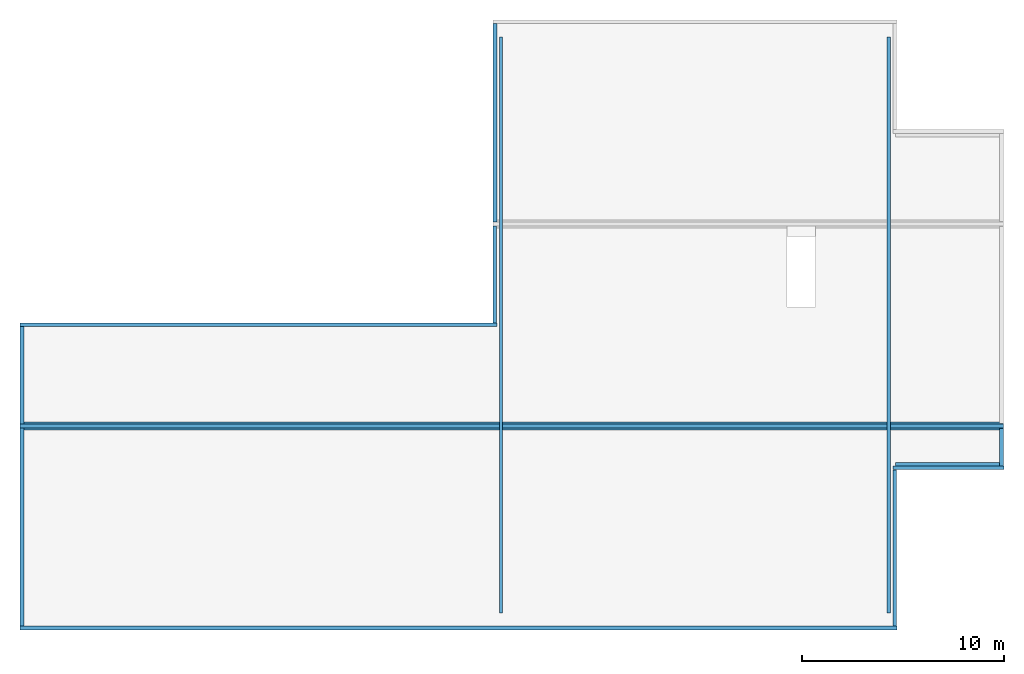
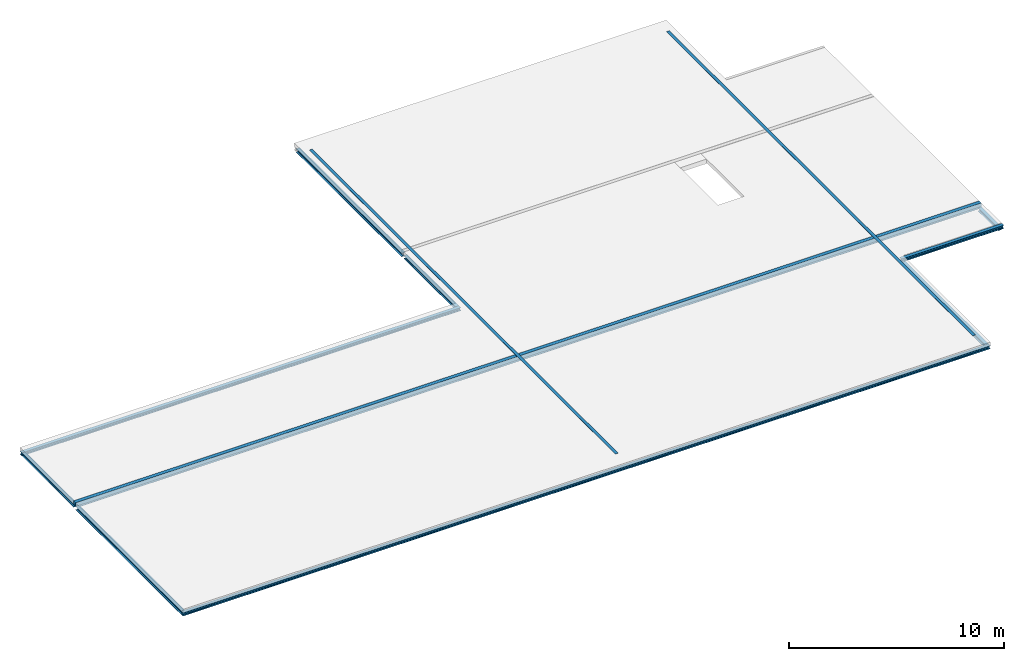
# One storey, part 1 of 2: 12 beams.
"""IFC2X3 building model written with IfcOpenShell, lengths in millimetres."""

from ifc_helpers import new_model, entity, si_unit, converted_unit, derived_unit, direction, frame, frame_2d, origin, origin_2d_with_axis, place, context, subcontext, project, spatial, polyline, circle_curve, parameter, trimmed, segment, composite_curve, rectangle, i_section, outline, extrude, boolean, source, transform, mapped, material, type_object, type_shapes, element, save


model = new_model("IFC2X3")

# Units and contexts
model_context = context("Model", 3, precision=0.01, world=origin(), true_north=direction((6.123031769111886e-17, 1.0)))
body_context = subcontext(model_context, "Body", "Model", "MODEL_VIEW")
ifc_project = project(units=[si_unit("LENGTHUNIT", "METRE", prefix="MILLI"), si_unit("AREAUNIT", "SQUARE_METRE"), si_unit("VOLUMEUNIT", "CUBIC_METRE"), converted_unit("PLANEANGLEUNIT", "DEGREE", entity("IfcPlaneAngleMeasure", 0.017453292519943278), si_unit("PLANEANGLEUNIT", "RADIAN"), dimensions=[0, 0, 0, 0, 0, 0, 0]), si_unit("MASSUNIT", "GRAM", prefix="KILO"), derived_unit("MASSDENSITYUNIT", [(si_unit("MASSUNIT", "GRAM", prefix="KILO"), 1), (si_unit("LENGTHUNIT", "METRE"), -3)]), derived_unit("IONCONCENTRATIONUNIT", [(si_unit("MASSUNIT", "GRAM", prefix="KILO"), 1), (si_unit("LENGTHUNIT", "METRE"), -3)]), derived_unit("MOMENTOFINERTIAUNIT", [(si_unit("LENGTHUNIT", "METRE"), 4)]), si_unit("TIMEUNIT", "SECOND"), si_unit("FREQUENCYUNIT", "HERTZ"), si_unit("THERMODYNAMICTEMPERATUREUNIT", "DEGREE_CELSIUS"), derived_unit("THERMALTRANSMITTANCEUNIT", [(si_unit("MASSUNIT", "GRAM", prefix="KILO"), 1), (si_unit("THERMODYNAMICTEMPERATUREUNIT", "KELVIN"), -1), (si_unit("TIMEUNIT", "SECOND"), -3)]), derived_unit("THERMALCONDUCTANCEUNIT", [(si_unit("MASSUNIT", "GRAM", prefix="KILO"), 1), (si_unit("THERMODYNAMICTEMPERATUREUNIT", "KELVIN"), -1), (si_unit("TIMEUNIT", "SECOND"), -3), (si_unit("LENGTHUNIT", "METRE"), 1)]), derived_unit("VOLUMETRICFLOWRATEUNIT", [(si_unit("LENGTHUNIT", "METRE", prefix="DECI"), 3), (si_unit("TIMEUNIT", "SECOND"), -1)]), derived_unit("MASSFLOWRATEUNIT", [(si_unit("MASSUNIT", "GRAM", prefix="KILO"), 1), (si_unit("TIMEUNIT", "SECOND"), -1)]), derived_unit("ROTATIONALFREQUENCYUNIT", [(si_unit("TIMEUNIT", "SECOND"), -1)]), si_unit("ELECTRICCURRENTUNIT", "AMPERE"), si_unit("ELECTRICVOLTAGEUNIT", "VOLT"), si_unit("POWERUNIT", "WATT"), si_unit("FORCEUNIT", "NEWTON", prefix="KILO"), si_unit("ILLUMINANCEUNIT", "LUX"), si_unit("LUMINOUSFLUXUNIT", "LUMEN"), si_unit("LUMINOUSINTENSITYUNIT", "CANDELA"), si_unit("ENERGYUNIT", "JOULE"), derived_unit("USERDEFINED", [(si_unit("MASSUNIT", "GRAM", prefix="KILO"), -1), (si_unit("LENGTHUNIT", "METRE"), -2), (si_unit("TIMEUNIT", "SECOND"), 3), (si_unit("LUMINOUSFLUXUNIT", "LUMEN"), 1)]), derived_unit("USERDEFINED", [(si_unit("MASSUNIT", "GRAM", prefix="KILO"), 1), (si_unit("TIMEUNIT", "SECOND"), -3), (si_unit("LENGTHUNIT", "METRE"), 3), (si_unit("ELECTRICCURRENTUNIT", "AMPERE"), -2)]), derived_unit("SOUNDPOWERUNIT", [(si_unit("MASSUNIT", "GRAM", prefix="KILO"), 1), (si_unit("TIMEUNIT", "SECOND"), -3), (si_unit("LENGTHUNIT", "METRE"), 2)]), derived_unit("SOUNDPRESSUREUNIT", [(si_unit("MASSUNIT", "GRAM", prefix="KILO"), 1), (si_unit("LENGTHUNIT", "METRE"), -1), (si_unit("TIMEUNIT", "SECOND"), -2)]), derived_unit("LINEARVELOCITYUNIT", [(si_unit("LENGTHUNIT", "METRE"), 1), (si_unit("TIMEUNIT", "SECOND"), -1)]), si_unit("PRESSUREUNIT", "PASCAL"), derived_unit("USERDEFINED", [(si_unit("MASSUNIT", "GRAM", prefix="KILO"), 1), (si_unit("LENGTHUNIT", "METRE"), -2), (si_unit("TIMEUNIT", "SECOND"), -2)]), derived_unit("LINEARFORCEUNIT", [(si_unit("MASSUNIT", "GRAM", prefix="KILO"), 1), (si_unit("TIMEUNIT", "SECOND"), -2)]), derived_unit("PLANARFORCEUNIT", [(si_unit("MASSUNIT", "GRAM", prefix="KILO"), 1), (si_unit("LENGTHUNIT", "METRE"), -1), (si_unit("TIMEUNIT", "SECOND"), -2)]), derived_unit("SPECIFICHEATCAPACITYUNIT", [(si_unit("THERMODYNAMICTEMPERATUREUNIT", "KELVIN"), -1), (si_unit("LENGTHUNIT", "METRE"), 2), (si_unit("TIMEUNIT", "SECOND"), -2)]), derived_unit("HEATFLUXDENSITYUNIT", [(si_unit("MASSUNIT", "GRAM", prefix="KILO"), 1), (si_unit("TIMEUNIT", "SECOND"), -3)]), derived_unit("HEATINGVALUEUNIT", [(si_unit("LENGTHUNIT", "METRE"), 2), (si_unit("TIMEUNIT", "SECOND"), -2)]), derived_unit("VAPORPERMEABILITYUNIT", [(si_unit("LENGTHUNIT", "METRE"), -1), (si_unit("TIMEUNIT", "SECOND"), 1)]), derived_unit("DYNAMICVISCOSITYUNIT", [(si_unit("MASSUNIT", "GRAM", prefix="KILO"), 1), (si_unit("TIMEUNIT", "SECOND"), -1), (si_unit("LENGTHUNIT", "METRE"), -1)]), derived_unit("THERMALEXPANSIONCOEFFICIENTUNIT", [(si_unit("THERMODYNAMICTEMPERATUREUNIT", "KELVIN"), -1)]), derived_unit("MODULUSOFELASTICITYUNIT", [(si_unit("MASSUNIT", "GRAM", prefix="KILO"), 1), (si_unit("LENGTHUNIT", "METRE"), -1), (si_unit("TIMEUNIT", "SECOND"), -2)]), derived_unit("ISOTHERMALMOISTURECAPACITYUNIT", [(si_unit("MASSUNIT", "GRAM", prefix="KILO"), -1), (si_unit("LENGTHUNIT", "METRE"), 3)]), derived_unit("MOISTUREDIFFUSIVITYUNIT", [(si_unit("TIMEUNIT", "SECOND"), -1), (si_unit("LENGTHUNIT", "METRE"), 2)]), derived_unit("MASSPERLENGTHUNIT", [(si_unit("MASSUNIT", "GRAM", prefix="KILO"), 1), (si_unit("LENGTHUNIT", "METRE"), -1)]), derived_unit("THERMALRESISTANCEUNIT", [(si_unit("MASSUNIT", "GRAM", prefix="KILO"), -1), (si_unit("TIMEUNIT", "SECOND"), 3), (si_unit("THERMODYNAMICTEMPERATUREUNIT", "KELVIN"), 1)]), derived_unit("ACCELERATIONUNIT", [(si_unit("LENGTHUNIT", "METRE"), 1), (si_unit("TIMEUNIT", "SECOND"), -2)]), derived_unit("ANGULARVELOCITYUNIT", [(si_unit("TIMEUNIT", "SECOND"), -1), (si_unit("PLANEANGLEUNIT", "RADIAN"), 1)]), derived_unit("LINEARSTIFFNESSUNIT", [(si_unit("MASSUNIT", "GRAM", prefix="KILO"), 1), (si_unit("TIMEUNIT", "SECOND"), -2)]), derived_unit("WARPINGCONSTANTUNIT", [(si_unit("LENGTHUNIT", "METRE"), 6)]), derived_unit("LINEARMOMENTUNIT", [(si_unit("MASSUNIT", "GRAM", prefix="KILO"), 1), (si_unit("LENGTHUNIT", "METRE"), 1), (si_unit("TIMEUNIT", "SECOND"), -2)]), derived_unit("TORQUEUNIT", [(si_unit("MASSUNIT", "GRAM", prefix="KILO"), 1), (si_unit("LENGTHUNIT", "METRE"), 2), (si_unit("TIMEUNIT", "SECOND"), -2)])], contexts=[model_context])

# Site, building, storey
site_placement = place(None, origin())
site = spatial("IfcSite", under=ifc_project, at=site_placement, Name="Default", CompositionType="ELEMENT")
building_placement = place(site_placement, origin())
building = spatial("IfcBuilding", under=site, at=building_placement, CompositionType="ELEMENT")
storey_placement = place(building_placement, frame((0.0, 0.0, 7750.0)))
storey = spatial("IfcBuildingStorey", under=building, at=storey_placement, Name="02 tweede verdieping", CompositionType="ELEMENT", Elevation=7750.0)

# Beams
ifc_material = material(Name="VRI_staal")
beam_type_1 = type_object("IfcBeamType", Name="28_SFR_VRI_balk_staal_H:HEB180", PredefinedType="NOTDEFINED")
beam_1_placement = place(storey_placement, frame((10000.0, 25000.0, -205.0)))
element("IfcBeam", 1, at=beam_1_placement, inside=storey, type_object=beam_type_1, material=ifc_material, Name="28_SFR_VRI_balk_staal_H:HEB180", ObjectType="28_SFR_VRI_balk_staal_H:HEB180", context=body_context, shape_type="SweptSolid", body=[
    extrude(outline(composite_curve([segment(polyline([(76.0, -90.0), (90.0, -90.0)]), True, "CONTINUOUS"), segment(polyline([(90.0, -90.0), (90.0, 90.0)]), True, "CONTINUOUS"), segment(polyline([(90.0, 90.0), (76.0, 90.0)]), True, "CONTINUOUS"), segment(polyline([(76.0, 90.0), (76.0, 19.249999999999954)]), True, "CONTINUOUS"), segment(trimmed(circle_curve(frame_2d((61.0, 19.250000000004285), x_axis=(1.0, 0.0)), 15.000000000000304), [parameter(270.00000000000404)], [parameter(0.0)], True, "PARAMETER"), False, "CONTINUOUS"), segment(polyline([(61.0, 4.250000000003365), (-61.0, 4.250000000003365)]), True, "CONTINUOUS"), segment(trimmed(circle_curve(frame_2d((-61.0, 19.250000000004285), x_axis=(0.0, -1.0)), 15.000000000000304), [parameter(270.00000000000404)], [parameter(0.0)], True, "PARAMETER"), False, "CONTINUOUS"), segment(polyline([(-76.0, 19.250000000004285), (-76.0, 90.0)]), True, "CONTINUOUS"), segment(polyline([(-76.0, 90.0), (-90.0, 90.0)]), True, "CONTINUOUS"), segment(polyline([(-90.0, 90.0), (-90.0, -90.0)]), True, "CONTINUOUS"), segment(polyline([(-90.0, -90.0), (-76.0, -90.0)]), True, "CONTINUOUS"), segment(polyline([(-76.0, -90.0), (-76.0, -19.249999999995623)]), True, "CONTINUOUS"), segment(trimmed(circle_curve(frame_2d((-61.0, -19.249999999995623), x_axis=(-1.0, 0.0)), 15.000000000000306), [parameter(270.00000000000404)], [parameter(0.0)], True, "PARAMETER"), False, "CONTINUOUS"), segment(polyline([(-61.0, -4.249999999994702), (61.0, -4.249999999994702)]), True, "CONTINUOUS"), segment(trimmed(circle_curve(frame_2d((61.0, -19.249999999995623), x_axis=(0.0, 1.0)), 15.000000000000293), [parameter(270.00000000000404)], [parameter(0.0)], True, "PARAMETER"), False, "CONTINUOUS"), segment(polyline([(76.0, -19.249999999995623), (76.0, -90.0)]), True, "CONTINUOUS")], self_intersect=False)), frame((-100.0, 0.0, -90.0), z_axis=(1.0, 0.0, 0.0), x_axis=(0.0, 0.0, -1.0)), (0.0, 0.0, 1.0), 23600.00000000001),
])
beam_2_placement = place(storey_placement, frame((10000.0, 10000.0, -205.0)))
element("IfcBeam", 2, at=beam_2_placement, inside=storey, type_object=beam_type_1, material=ifc_material, Name="28_SFR_VRI_balk_staal_H:HEB180", ObjectType="28_SFR_VRI_balk_staal_H:HEB180", context=body_context, shape_type="SweptSolid", body=[
    extrude(outline(composite_curve([segment(polyline([(76.0, -90.0), (90.0, -90.0)]), True, "CONTINUOUS"), segment(polyline([(90.0, -90.0), (90.0, 90.0)]), True, "CONTINUOUS"), segment(polyline([(90.0, 90.0), (76.0, 90.0)]), True, "CONTINUOUS"), segment(polyline([(76.0, 90.0), (76.0, 19.25000000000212)]), True, "CONTINUOUS"), segment(trimmed(circle_curve(frame_2d((61.0, 19.25000000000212), x_axis=(1.0, 0.0)), 15.000000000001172), [parameter(270.00000000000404)], [parameter(0.0)], True, "PARAMETER"), False, "CONTINUOUS"), segment(polyline([(61.0, 4.250000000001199), (-61.0, 4.250000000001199)]), True, "CONTINUOUS"), segment(trimmed(circle_curve(frame_2d((-61.0, 19.25000000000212), x_axis=(0.0, -1.0)), 15.000000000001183), [parameter(270.00000000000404)], [parameter(0.0)], True, "PARAMETER"), False, "CONTINUOUS"), segment(polyline([(-76.0, 19.25000000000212), (-76.0, 90.0)]), True, "CONTINUOUS"), segment(polyline([(-76.0, 90.0), (-90.0, 90.0)]), True, "CONTINUOUS"), segment(polyline([(-90.0, 90.0), (-90.0, -90.0)]), True, "CONTINUOUS"), segment(polyline([(-90.0, -90.0), (-76.0, -90.0)]), True, "CONTINUOUS"), segment(polyline([(-76.0, -90.0), (-76.0, -19.249999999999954)]), True, "CONTINUOUS"), segment(trimmed(circle_curve(frame_2d((-61.0, -19.249999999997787), x_axis=(-1.0, 0.0)), 15.000000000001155), [parameter(270.00000000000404)], [parameter(0.0)], True, "PARAMETER"), False, "CONTINUOUS"), segment(polyline([(-61.0, -4.2499999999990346), (61.0, -4.2499999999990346)]), True, "CONTINUOUS"), segment(trimmed(circle_curve(frame_2d((61.0, -19.249999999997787), x_axis=(0.0, 1.0)), 15.000000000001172), [parameter(270.00000000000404)], [parameter(0.0)], True, "PARAMETER"), False, "CONTINUOUS"), segment(polyline([(76.0, -19.249999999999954), (76.0, -90.0)]), True, "CONTINUOUS")], self_intersect=False)), frame((-100.0, 0.0, -90.0), z_axis=(1.0, 0.0, 0.0), x_axis=(0.0, 0.0, -1.0)), (0.0, 0.0, 1.0), 43400.00000000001),
])
beam_3_placement = place(storey_placement, frame((58475.0, 20000.0, -205.0), z_axis=(0.0, 0.0, 1.0), x_axis=(0.0, -1.0, 0.0)))
element("IfcBeam", 3, at=beam_3_placement, inside=storey, type_object=beam_type_1, material=ifc_material, Name="28_SFR_VRI_balk_staal_H:HEB180", ObjectType="28_SFR_VRI_balk_staal_H:HEB180", context=body_context, shape_type="SweptSolid", body=[
    extrude(outline(composite_curve([segment(polyline([(76.0, -90.0), (90.0, -90.0)]), True, "CONTINUOUS"), segment(polyline([(90.0, -90.0), (90.0, 90.0)]), True, "CONTINUOUS"), segment(polyline([(90.0, 90.0), (76.0, 90.0)]), True, "CONTINUOUS"), segment(polyline([(76.0, 90.0), (76.0, 19.249999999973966)]), True, "CONTINUOUS"), segment(trimmed(circle_curve(frame_2d((61.0, 19.24999999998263), x_axis=(1.0, 0.0)), 14.999999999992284), [parameter(269.99999999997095)], [parameter(0.0)], True, "PARAMETER"), False, "CONTINUOUS"), segment(polyline([(61.0, 4.249999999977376), (-61.0, 4.249999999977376)]), True, "CONTINUOUS"), segment(trimmed(circle_curve(frame_2d((-61.0, 19.24999999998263), x_axis=(0.0, -1.0)), 14.999999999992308), [parameter(269.99999999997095)], [parameter(0.0)], True, "PARAMETER"), False, "CONTINUOUS"), segment(polyline([(-76.0, 19.24999999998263), (-76.0, 90.0)]), True, "CONTINUOUS"), segment(polyline([(-76.0, 90.0), (-90.0, 90.0)]), True, "CONTINUOUS"), segment(polyline([(-90.0, 90.0), (-90.0, -90.0)]), True, "CONTINUOUS"), segment(polyline([(-90.0, -90.0), (-76.0, -90.0)]), True, "CONTINUOUS"), segment(polyline([(-76.0, -90.0), (-76.0, -19.25000000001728)]), True, "CONTINUOUS"), segment(trimmed(circle_curve(frame_2d((-61.0, -19.25000000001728), x_axis=(-1.0, 0.0)), 14.9999999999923), [parameter(269.99999999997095)], [parameter(0.0)], True, "PARAMETER"), False, "CONTINUOUS"), segment(polyline([(-61.0, -4.250000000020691), (61.0, -4.250000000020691)]), True, "CONTINUOUS"), segment(trimmed(circle_curve(frame_2d((61.0, -19.25000000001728), x_axis=(0.0, 1.0)), 14.999999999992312), [parameter(269.99999999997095)], [parameter(0.0)], True, "PARAMETER"), False, "CONTINUOUS"), segment(polyline([(76.0, -19.25000000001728), (76.0, -90.0)]), True, "CONTINUOUS")], self_intersect=False)), frame((125.0, 0.0, -90.0), z_axis=(1.0, 0.0, 0.0), x_axis=(0.0, 0.0, -1.0)), (0.0, 0.0, 1.0), 1860.0000000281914),
])
beam_4_placement = place(storey_placement, frame((33400.0, 30000.0, -205.0), z_axis=(0.0, 0.0, 1.0), x_axis=(0.0, -1.0, 0.0)))
element("IfcBeam", 4, at=beam_4_placement, inside=storey, type_object=beam_type_1, material=ifc_material, Name="28_SFR_VRI_balk_staal_H:HEB180", ObjectType="28_SFR_VRI_balk_staal_H:HEB180", context=body_context, shape_type="SweptSolid", body=[
    extrude(outline(composite_curve([segment(polyline([(76.0, -90.0), (90.0, -90.0)]), True, "CONTINUOUS"), segment(polyline([(90.0, -90.0), (90.0, 90.0)]), True, "CONTINUOUS"), segment(polyline([(90.0, 90.0), (76.0, 90.0)]), True, "CONTINUOUS"), segment(polyline([(76.0, 90.0), (76.0, 19.249999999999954)]), True, "CONTINUOUS"), segment(trimmed(circle_curve(frame_2d((61.0, 19.250000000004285), x_axis=(1.0, 0.0)), 15.000000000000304), [parameter(270.00000000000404)], [parameter(0.0)], True, "PARAMETER"), False, "CONTINUOUS"), segment(polyline([(61.0, 4.250000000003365), (-61.0, 4.250000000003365)]), True, "CONTINUOUS"), segment(trimmed(circle_curve(frame_2d((-61.0, 19.250000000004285), x_axis=(0.0, -1.0)), 15.000000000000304), [parameter(270.00000000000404)], [parameter(0.0)], True, "PARAMETER"), False, "CONTINUOUS"), segment(polyline([(-76.0, 19.250000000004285), (-76.0, 90.0)]), True, "CONTINUOUS"), segment(polyline([(-76.0, 90.0), (-90.0, 90.0)]), True, "CONTINUOUS"), segment(polyline([(-90.0, 90.0), (-90.0, -90.0)]), True, "CONTINUOUS"), segment(polyline([(-90.0, -90.0), (-76.0, -90.0)]), True, "CONTINUOUS"), segment(polyline([(-76.0, -90.0), (-76.0, -19.249999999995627)]), True, "CONTINUOUS"), segment(trimmed(circle_curve(frame_2d((-61.0, -19.249999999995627), x_axis=(-1.0, 0.0)), 15.000000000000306), [parameter(270.00000000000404)], [parameter(0.0)], True, "PARAMETER"), False, "CONTINUOUS"), segment(polyline([(-61.0, -4.249999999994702), (61.0, -4.249999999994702)]), True, "CONTINUOUS"), segment(trimmed(circle_curve(frame_2d((61.0, -19.249999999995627), x_axis=(0.0, 1.0)), 15.000000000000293), [parameter(270.00000000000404)], [parameter(0.0)], True, "PARAMETER"), False, "CONTINUOUS"), segment(polyline([(76.0, -19.249999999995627), (76.0, -90.0)]), True, "CONTINUOUS")], self_intersect=False)), frame((100.0, 0.0, -90.0), z_axis=(1.0, 0.0, 0.0), x_axis=(0.0, 0.0, -1.0)), (0.0, 0.0, 1.0), 4810.000000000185),
])
beam_5_placement = place(storey_placement, frame((10000.0, 25000.0, -205.0), z_axis=(0.0, 0.0, 1.0), x_axis=(0.0, -1.0, 0.0)))
element("IfcBeam", 5, at=beam_5_placement, inside=storey, type_object=beam_type_1, material=ifc_material, Name="28_SFR_VRI_balk_staal_H:HEB180", ObjectType="28_SFR_VRI_balk_staal_H:HEB180", context=body_context, shape_type="SweptSolid", body=[
    extrude(outline(composite_curve([segment(polyline([(76.0, -90.0), (90.0, -90.0)]), True, "CONTINUOUS"), segment(polyline([(90.0, -90.0), (90.0, 90.0)]), True, "CONTINUOUS"), segment(polyline([(90.0, 90.0), (76.0, 90.0)]), True, "CONTINUOUS"), segment(polyline([(76.0, 90.0), (76.0, 19.249999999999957)]), True, "CONTINUOUS"), segment(trimmed(circle_curve(frame_2d((61.0, 19.249999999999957), x_axis=(1.0, 0.0)), 15.000000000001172), [parameter(270.00000000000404)], [parameter(0.0)], True, "PARAMETER"), False, "CONTINUOUS"), segment(polyline([(61.0, 4.249999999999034), (-61.0, 4.249999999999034)]), True, "CONTINUOUS"), segment(trimmed(circle_curve(frame_2d((-61.0, 19.249999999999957), x_axis=(0.0, -1.0)), 15.000000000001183), [parameter(270.00000000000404)], [parameter(0.0)], True, "PARAMETER"), False, "CONTINUOUS"), segment(polyline([(-76.0, 19.249999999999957), (-76.0, 90.0)]), True, "CONTINUOUS"), segment(polyline([(-76.0, 90.0), (-90.0, 90.0)]), True, "CONTINUOUS"), segment(polyline([(-90.0, 90.0), (-90.0, -90.0)]), True, "CONTINUOUS"), segment(polyline([(-90.0, -90.0), (-76.0, -90.0)]), True, "CONTINUOUS"), segment(polyline([(-76.0, -90.0), (-76.0, -19.24999999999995)]), True, "CONTINUOUS"), segment(trimmed(circle_curve(frame_2d((-61.0, -19.24999999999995), x_axis=(-1.0, 0.0)), 15.000000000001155), [parameter(270.00000000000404)], [parameter(0.0)], True, "PARAMETER"), False, "CONTINUOUS"), segment(polyline([(-61.0, -4.250000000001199), (61.0, -4.250000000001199)]), True, "CONTINUOUS"), segment(trimmed(circle_curve(frame_2d((61.0, -19.24999999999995), x_axis=(0.0, 1.0)), 15.000000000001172), [parameter(270.00000000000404)], [parameter(0.0)], True, "PARAMETER"), False, "CONTINUOUS"), segment(polyline([(76.0, -19.250000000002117), (76.0, -90.0)]), True, "CONTINUOUS")], self_intersect=False)), frame((90.0, 0.0, -90.0), z_axis=(1.0, 0.0, 0.0), x_axis=(0.0, 0.0, -1.0)), (0.0, 0.0, 1.0), 4809.9999999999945),
])
beam_6_placement = place(storey_placement, frame((53200.0, 17925.0, -205.0), z_axis=(0.0, 0.0, 1.0), x_axis=(0.0, -1.0, 0.0)))
element("IfcBeam", 6, at=beam_6_placement, inside=storey, type_object=beam_type_1, material=ifc_material, Name="28_SFR_VRI_balk_staal_H:HEB180", ObjectType="28_SFR_VRI_balk_staal_H:HEB180", context=body_context, shape_type="SweptSolid", body=[
    extrude(outline(composite_curve([segment(polyline([(76.0, -90.0), (90.0, -90.0)]), True, "CONTINUOUS"), segment(polyline([(90.0, -90.0), (90.0, 90.0)]), True, "CONTINUOUS"), segment(polyline([(90.0, 90.0), (76.0, 90.0)]), True, "CONTINUOUS"), segment(polyline([(76.0, 90.0), (76.0, 19.25000000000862)]), True, "CONTINUOUS"), segment(trimmed(circle_curve(frame_2d((61.0, 19.25000000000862), x_axis=(1.0, 0.0)), 14.999999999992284), [parameter(269.99999999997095)], [parameter(0.0)], True, "PARAMETER"), False, "CONTINUOUS"), segment(polyline([(61.0, 4.250000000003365), (-61.0, 4.250000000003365)]), True, "CONTINUOUS"), segment(trimmed(circle_curve(frame_2d((-61.0, 19.25000000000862), x_axis=(0.0, -1.0)), 14.999999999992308), [parameter(269.99999999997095)], [parameter(0.0)], True, "PARAMETER"), False, "CONTINUOUS"), segment(polyline([(-76.0, 19.25000000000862), (-76.0, 90.0)]), True, "CONTINUOUS"), segment(polyline([(-76.0, 90.0), (-90.0, 90.0)]), True, "CONTINUOUS"), segment(polyline([(-90.0, 90.0), (-90.0, -90.0)]), True, "CONTINUOUS"), segment(polyline([(-90.0, -90.0), (-76.0, -90.0)]), True, "CONTINUOUS"), segment(polyline([(-76.0, -90.0), (-76.0, -19.249999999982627)]), True, "CONTINUOUS"), segment(trimmed(circle_curve(frame_2d((-61.0, -19.249999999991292), x_axis=(-1.0, 0.0)), 14.9999999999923), [parameter(269.99999999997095)], [parameter(0.0)], True, "PARAMETER"), False, "CONTINUOUS"), segment(polyline([(-61.0, -4.249999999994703), (61.0, -4.249999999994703)]), True, "CONTINUOUS"), segment(trimmed(circle_curve(frame_2d((61.0, -19.249999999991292), x_axis=(0.0, 1.0)), 14.999999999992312), [parameter(269.99999999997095)], [parameter(0.0)], True, "PARAMETER"), False, "CONTINUOUS"), segment(polyline([(76.0, -19.249999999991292), (76.0, -90.0)]), True, "CONTINUOUS")], self_intersect=False)), frame((100.0, 0.0, -90.0), z_axis=(1.0, 0.0, 0.0), x_axis=(0.0, 0.0, -1.0)), (0.0, 0.0, 1.0), 7734.999999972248),
])
beam_type_2 = type_object("IfcBeamType", Name="28_SFR_VRI_balk_staal_THQ:THQ200x5-190x15-400x15", PredefinedType="NOTDEFINED")
beam_7_placement = place(storey_placement, frame((10000.0, 20000.0, -5.0)))
element("IfcBeam", 7, at=beam_7_placement, inside=storey, type_object=beam_type_2, material=ifc_material, Name="28_SFR_VRI_balk_staal_THQ:THQ200x5-190x15-400x15", ObjectType="28_SFR_VRI_balk_staal_THQ:THQ200x5-190x15-400x15", context=body_context, shape_type="SweptSolid", body=[
    boolean("DIFFERENCE", extrude(outline(polyline([(46.25000000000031, -200.0), (61.24999999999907, -200.0), (61.24999999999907, 200.0), (46.24999999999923, 200.0), (46.24999999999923, 100.0), (-153.7499999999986, 100.0), (-153.7499999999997, -100.0), (46.25000000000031, -100.0), (46.25000000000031, -200.0)])), frame((-100.0, 0.0, -153.7500000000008), z_axis=(1.0, 0.0, 0.0), x_axis=(0.0, 0.0, -1.0)), (0.0, 0.0, 1.0), 48675.00000000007), extrude(rectangle(XDim=185.00000000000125, YDim=190.0000000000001, at=frame_2d((0.0, 0.0), x_axis=(0.0, 1.0))), frame((48575.0, 0.0, -107.50000000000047), z_axis=(-1.0, 0.0, 0.0), x_axis=(0.0, 1.0, 0.0)), (0.0, 0.0, 1.0), 48675.00000000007)),
])
beam_type_3 = type_object("IfcBeamType", Name="28_SFR_VRI_balk_staal_SFB_eenzijdiig:HEB180_340x15", PredefinedType="BEAM", material=ifc_material)
shared_shape = source(origin(), body_context, "Body", "SweptSolid", [
    extrude(i_section(OverallWidth=180.00000000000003, OverallDepth=179.99999999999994, WebThickness=8.499999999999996, FlangeThickness=14.000000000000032, FilletRadius=15.000000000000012, at=frame_2d((2.1316282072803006e-14, 7.105427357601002e-15), x_axis=(0.0, 1.0))), frame((-2737.499999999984, 0.0, 0.0), z_axis=(1.0, 0.0, 0.0), x_axis=(0.0, 0.0, -1.0)), (0.0, 0.0, 1.0), 5499.99999999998),
    extrude(rectangle(XDim=15.00000000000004, YDim=339.99999999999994, at=origin_2d_with_axis()), frame((-2617.499999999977, 105.0, -97.5), z_axis=(1.0, 0.0, 0.0), x_axis=(0.0, 0.0, -1.0)), (0.0, 0.0, 1.0), 5259.999999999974),
])
type_shapes(beam_type_3, [shared_shape])
beam_8_placement = place(storey_placement, frame((55837.50000000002, 17925.0, -115.0)))
element("IfcBeam", 8, at=beam_8_placement, inside=storey, type_object=beam_type_3, material=ifc_material, Name="28_SFR_VRI_balk_staal_SFB_eenzijdiig:HEB180_340x15", ObjectType="28_SFR_VRI_balk_staal_SFB_eenzijdiig:HEB180_340x15", context=body_context, shape_type="MappedRepresentation", body=[
    mapped(shared_shape, transform((0.0, 0.0, 0.0), scale=1.0)),
])
beam_type_4 = type_object("IfcBeamType", Name="28_SFR_VRI_balk_staal_H:HEB200", PredefinedType="NOTDEFINED")
beam_9_placement = place(storey_placement, frame((33400.0, 40000.0, -205.0), z_axis=(0.0, 0.0, 1.0), x_axis=(0.0, -1.0, 0.0)))
element("IfcBeam", 9, at=beam_9_placement, inside=storey, type_object=beam_type_4, material=ifc_material, Name="28_SFR_VRI_balk_staal_H:HEB200", ObjectType="28_SFR_VRI_balk_staal_H:HEB200", context=body_context, shape_type="SweptSolid", body=[
    extrude(outline(composite_curve([segment(polyline([(85.0, -100.0), (100.0, -100.0)]), True, "CONTINUOUS"), segment(polyline([(100.0, -100.0), (100.0, 100.0)]), True, "CONTINUOUS"), segment(polyline([(100.0, 100.0), (85.0, 100.0)]), True, "CONTINUOUS"), segment(polyline([(85.0, 100.0), (85.0, 22.499999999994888)]), True, "CONTINUOUS"), segment(trimmed(circle_curve(frame_2d((67.0, 22.499999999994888), x_axis=(1.0, 0.0)), 18.000000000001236), [parameter(270.00000000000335)], [parameter(0.0)], True, "PARAMETER"), False, "CONTINUOUS"), segment(polyline([(67.0, 4.499999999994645), (-67.0, 4.499999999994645)]), True, "CONTINUOUS"), segment(trimmed(circle_curve(frame_2d((-67.0, 22.499999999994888), x_axis=(0.0, -1.0)), 18.00000000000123), [parameter(270.00000000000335)], [parameter(0.0)], True, "PARAMETER"), False, "CONTINUOUS"), segment(polyline([(-85.0, 22.499999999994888), (-85.0, 100.0)]), True, "CONTINUOUS"), segment(polyline([(-85.0, 100.0), (-100.0, 100.0)]), True, "CONTINUOUS"), segment(polyline([(-100.0, 100.0), (-100.0, -100.0)]), True, "CONTINUOUS"), segment(polyline([(-100.0, -100.0), (-85.0, -100.0)]), True, "CONTINUOUS"), segment(polyline([(-85.0, -100.0), (-85.0, -22.500000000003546)]), True, "CONTINUOUS"), segment(trimmed(circle_curve(frame_2d((-67.0, -22.500000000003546), x_axis=(-1.0, 0.0)), 18.000000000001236), [parameter(270.00000000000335)], [parameter(0.0)], True, "PARAMETER"), False, "CONTINUOUS"), segment(polyline([(-67.0, -4.500000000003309), (67.0, -4.500000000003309)]), True, "CONTINUOUS"), segment(trimmed(circle_curve(frame_2d((67.0, -22.500000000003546), x_axis=(0.0, 1.0)), 18.000000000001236), [parameter(270.00000000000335)], [parameter(0.0)], True, "PARAMETER"), False, "CONTINUOUS"), segment(polyline([(85.0, -22.500000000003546), (85.0, -100.0)]), True, "CONTINUOUS")], self_intersect=False)), frame((90.0, 0.0, -100.0), z_axis=(1.0, 0.0, 0.0), x_axis=(0.0, 0.0, -1.0)), (0.0, 0.0, 1.0), 9809.999999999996),
])
beam_10_placement = place(storey_placement, frame((10000.0, 10000.0, -205.0), z_axis=(0.0, 0.0, 1.0), x_axis=(0.0, 1.0, 0.0)))
element("IfcBeam", 10, at=beam_10_placement, inside=storey, type_object=beam_type_4, material=ifc_material, Name="28_SFR_VRI_balk_staal_H:HEB200", ObjectType="28_SFR_VRI_balk_staal_H:HEB200", context=body_context, shape_type="SweptSolid", body=[
    extrude(outline(composite_curve([segment(polyline([(85.0, -100.0), (100.0, -100.0)]), True, "CONTINUOUS"), segment(polyline([(100.0, -100.0), (100.0, 100.0)]), True, "CONTINUOUS"), segment(polyline([(100.0, 100.0), (85.0, 100.0)]), True, "CONTINUOUS"), segment(polyline([(85.0, 100.0), (85.0, 22.499999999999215)]), True, "CONTINUOUS"), segment(trimmed(circle_curve(frame_2d((67.0, 22.500000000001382), x_axis=(1.0, 0.0)), 18.000000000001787), [parameter(270.00000000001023)], [parameter(0.0)], True, "PARAMETER"), False, "CONTINUOUS"), segment(polyline([(67.0, 4.499999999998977), (-67.0, 4.499999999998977)]), True, "CONTINUOUS"), segment(trimmed(circle_curve(frame_2d((-67.0, 22.500000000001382), x_axis=(0.0, -1.0)), 18.000000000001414), [parameter(270.00000000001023)], [parameter(0.0)], True, "PARAMETER"), False, "CONTINUOUS"), segment(polyline([(-85.0, 22.499999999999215), (-85.0, 100.0)]), True, "CONTINUOUS"), segment(polyline([(-85.0, 100.0), (-100.0, 100.0)]), True, "CONTINUOUS"), segment(polyline([(-100.0, 100.0), (-100.0, -100.0)]), True, "CONTINUOUS"), segment(polyline([(-100.0, -100.0), (-85.0, -100.0)]), True, "CONTINUOUS"), segment(polyline([(-85.0, -100.0), (-85.0, -22.500000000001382)]), True, "CONTINUOUS"), segment(trimmed(circle_curve(frame_2d((-67.0, -22.50000000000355), x_axis=(-1.0, 0.0)), 18.00000000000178), [parameter(270.00000000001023)], [parameter(0.0)], True, "PARAMETER"), False, "CONTINUOUS"), segment(polyline([(-67.0, -4.500000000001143), (67.0, -4.500000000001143)]), True, "CONTINUOUS"), segment(trimmed(circle_curve(frame_2d((67.0, -22.50000000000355), x_axis=(0.0, 1.0)), 18.00000000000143), [parameter(270.00000000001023)], [parameter(0.0)], True, "PARAMETER"), False, "CONTINUOUS"), segment(polyline([(85.0, -22.500000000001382), (85.0, -100.0)]), True, "CONTINUOUS")], self_intersect=False)), frame((90.0, 0.0, -100.0), z_axis=(1.0, 0.0, 0.0), x_axis=(0.0, 0.0, -1.0)), (0.0, 0.0, 1.0), 9810.0),
])
beam_type_5 = type_object("IfcBeamType", Name="28_SFR_VRI_balk_staal_strip:160x5", PredefinedType="NOTDEFINED")
beam_11_placement = place(storey_placement, frame((33700.0, 10750.0, 10.0), z_axis=(0.0, 0.0, 1.0), x_axis=(0.0, 1.0, 0.0)))
element("IfcBeam", 11, at=beam_11_placement, inside=storey, type_object=beam_type_5, material=ifc_material, Name="28_SFR_VRI_balk_staal_strip:160x5", ObjectType="28_SFR_VRI_balk_staal_strip:160x5", context=body_context, shape_type="SweptSolid", body=[
    extrude(rectangle(XDim=4.999999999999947, YDim=160.00000000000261, at=frame_2d((5.415667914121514e-13, -2.1671553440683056e-12), x_axis=(1.0, 0.0))), frame((0.0, 0.0, -2.5000000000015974), z_axis=(1.0, 0.0, 0.0), x_axis=(0.0, 0.0, -1.0)), (0.0, 0.0, 1.0), 28500.0),
])
beam_12_placement = place(storey_placement, frame((52900.0, 10750.0, 10.0), z_axis=(0.0, 0.0, 1.0), x_axis=(0.0, 1.0, 0.0)))
element("IfcBeam", 12, at=beam_12_placement, inside=storey, type_object=beam_type_5, material=ifc_material, Name="28_SFR_VRI_balk_staal_strip:160x5", ObjectType="28_SFR_VRI_balk_staal_strip:160x5", context=body_context, shape_type="SweptSolid", body=[
    extrude(rectangle(XDim=4.999999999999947, YDim=159.99999999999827, at=frame_2d((5.415667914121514e-13, 0.0), x_axis=(1.0, 0.0))), frame((0.0, 0.0, -2.5000000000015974), z_axis=(1.0, 0.0, 0.0), x_axis=(0.0, 0.0, -1.0)), (0.0, 0.0, 1.0), 28500.000000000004),
])

save(model, "model.ifc")
